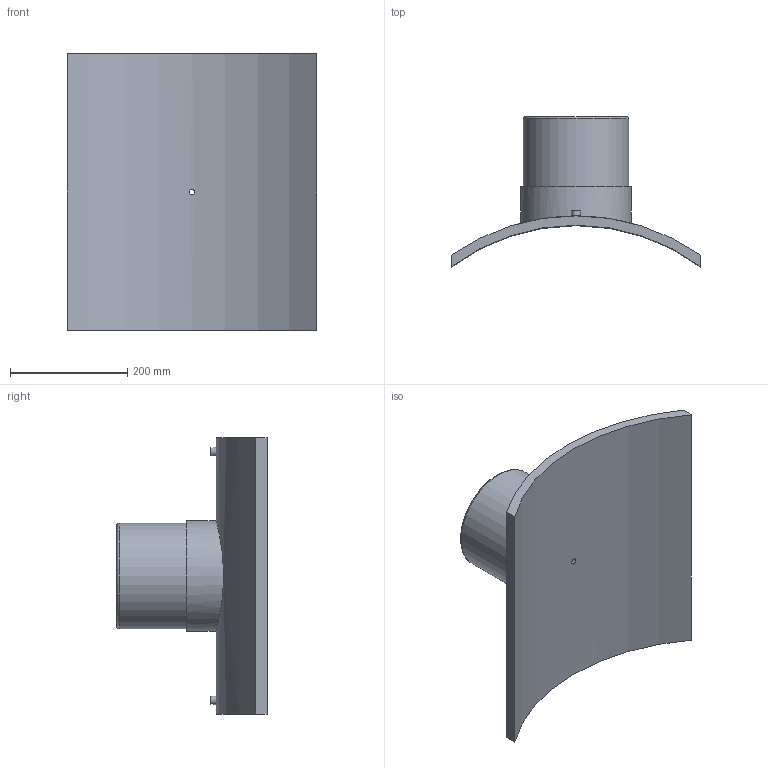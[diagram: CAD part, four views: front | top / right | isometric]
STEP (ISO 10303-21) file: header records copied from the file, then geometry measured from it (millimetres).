
FILE_DESCRIPTION(/* description */ ('PLASSON BRANCH SADDLE 710x180'),/* implementation_level */ '2;1');
FILE_NAME(/* name */ 'C:\Dropbox\KIMPROJECTS-Inventor 2019\99-16-3568-Processing\ElectroFusion Fittings\495803\stp\495803710180T.stp',/* time_stamp */ '2024-04-04T11:54:33+02:00',/* author */ ('KIM'),/* organization */ (''),/* preprocessor_version */ 'ST-DEVELOPER v17.2',/* originating_system */ 'Autodesk Inventor 2019',/* authorisation */ '');
FILE_SCHEMA (('AUTOMOTIVE_DESIGN { 1 0 10303 214 3 1 1 }'));
Length unit declared in the file: millimetre
Products named in the file (1): 495803710180T
Bounding box: 425 x 255.63 x 470 mm (x, y, z)
Volume: 5159737.1 mm3; surface area: 646000.1 mm2
Topology: 1 solids, 1 shells, 29 faces, 60 edges, 43 vertices
Faces by surface type: plane 13, cylinder 12, torus 2, cone 2
Full cylindrical faces by diameter (mm): 4 x2, 9.6 x1, 10 x2, 16 x1, 144 x1, 180 x1, 189 x1
Entity records: 1086 total; most frequent: CARTESIAN_POINT 400, DIRECTION 139, ORIENTED_EDGE 120, EDGE_CURVE 60, AXIS2_PLACEMENT_3D 60, VERTEX_POINT 43, EDGE_LOOP 41, CIRCLE 30
